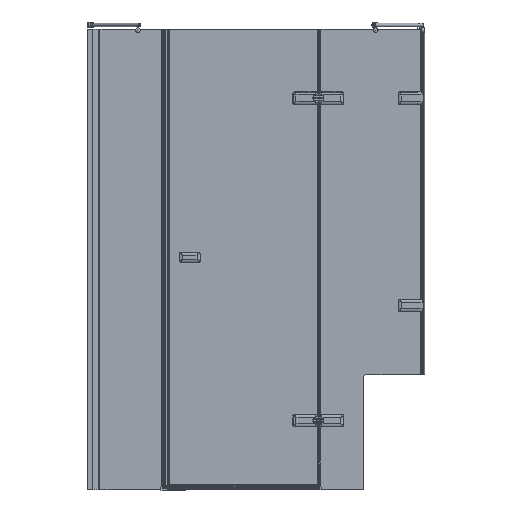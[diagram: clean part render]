
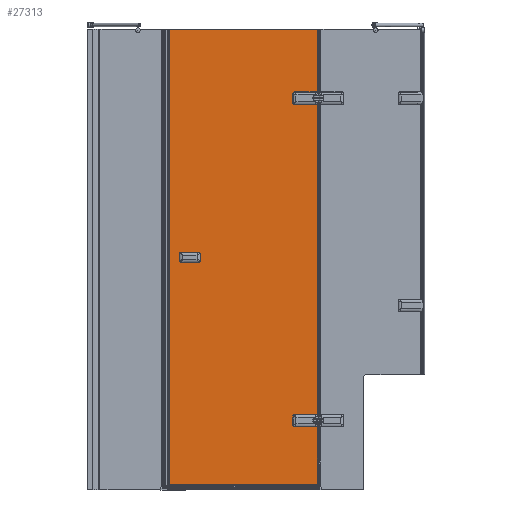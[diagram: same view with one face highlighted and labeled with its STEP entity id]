
A CAD part, front view. The second image highlights one B-rep face of the part: STEP entity #27313.
In plain terms, the highlighted planar face has unit normal (0, -1, 0).
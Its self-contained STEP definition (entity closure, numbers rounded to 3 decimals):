
#868=LINE($,#53818,#3219);
#872=LINE($,#53830,#3223);
#876=LINE($,#53841,#3227);
#1594=LINE($,#57191,#3945);
#1598=LINE($,#57203,#3949);
#1602=LINE($,#57214,#3953);
#1840=LINE($,#60328,#4191);
#2363=LINE($,#62188,#4714);
#2371=LINE($,#62207,#4722);
#2372=LINE($,#62209,#4723);
#2373=LINE($,#62211,#4724);
#2374=LINE($,#62212,#4725);
#3219=VECTOR($,#31676,96.);
#3223=VECTOR($,#31688,42.);
#3227=VECTOR($,#31700,96.);
#3945=VECTOR($,#33692,96.);
#3949=VECTOR($,#33704,42.);
#3953=VECTOR($,#33716,96.);
#4191=VECTOR($,#34628,648.724);
#4714=VECTOR($,#35863,277.362);
#4722=VECTOR($,#35893,1354.725);
#4723=VECTOR($,#35894,1975.4);
#4724=VECTOR($,#35895,648.724);
#4725=VECTOR($,#35896,252.762);
#7184=FACE_OUTER_BOUND($,#8824,.T.);
#8824=EDGE_LOOP($,(#22316,#22317,#22318,#22319,#22320,#22321,#22322,#22323,
#22324,#22325,#22326,#22327,#22328,#22329,#22330,#22331,#22332,#22333,#22334,
#22335));
#9415=CIRCLE($,#28147,5.);
#9418=CIRCLE($,#28151,5.);
#9455=CIRCLE($,#28227,5.);
#9457=CIRCLE($,#28231,5.);
#9666=CIRCLE($,#28794,5.);
#9669=CIRCLE($,#28798,5.);
#9705=CIRCLE($,#28872,5.);
#9707=CIRCLE($,#28876,5.);
#10601=VERTEX_POINT($,#53474);
#10602=VERTEX_POINT($,#53483);
#10605=VERTEX_POINT($,#53490);
#10608=VERTEX_POINT($,#53503);
#10719=VERTEX_POINT($,#53817);
#10721=VERTEX_POINT($,#53823);
#10723=VERTEX_POINT($,#53829);
#10725=VERTEX_POINT($,#53835);
#11306=VERTEX_POINT($,#56857);
#11307=VERTEX_POINT($,#56866);
#11310=VERTEX_POINT($,#56873);
#11313=VERTEX_POINT($,#56886);
#11421=VERTEX_POINT($,#57190);
#11423=VERTEX_POINT($,#57196);
#11425=VERTEX_POINT($,#57202);
#11427=VERTEX_POINT($,#57208);
#11740=VERTEX_POINT($,#60325);
#11741=VERTEX_POINT($,#60327);
#12174=VERTEX_POINT($,#62208);
#12175=VERTEX_POINT($,#62210);
#13248=EDGE_CURVE($,#10602,#10601,#9415,.T.);
#13255=EDGE_CURVE($,#10605,#10608,#9418,.T.);
#13411=EDGE_CURVE($,#10608,#10719,#868,.T.);
#13414=EDGE_CURVE($,#10719,#10721,#9455,.T.);
#13417=EDGE_CURVE($,#10721,#10723,#872,.T.);
#13420=EDGE_CURVE($,#10723,#10725,#9457,.T.);
#13423=EDGE_CURVE($,#10725,#10602,#876,.T.);
#14342=EDGE_CURVE($,#11307,#11306,#9666,.T.);
#14349=EDGE_CURVE($,#11310,#11313,#9669,.T.);
#14499=EDGE_CURVE($,#11313,#11421,#1594,.T.);
#14502=EDGE_CURVE($,#11421,#11423,#9705,.T.);
#14505=EDGE_CURVE($,#11423,#11425,#1598,.T.);
#14508=EDGE_CURVE($,#11425,#11427,#9707,.T.);
#14511=EDGE_CURVE($,#11427,#11307,#1602,.T.);
#14992=EDGE_CURVE($,#11740,#11741,#1840,.T.);
#15667=EDGE_CURVE($,#11306,#11741,#2363,.T.);
#15675=EDGE_CURVE($,#10601,#11310,#2371,.T.);
#15676=EDGE_CURVE($,#12174,#11740,#2372,.T.);
#15677=EDGE_CURVE($,#12174,#12175,#2373,.T.);
#15678=EDGE_CURVE($,#12175,#10605,#2374,.T.);
#22316=ORIENTED_EDGE($,*,*,#13248,.T.);
#22317=ORIENTED_EDGE($,*,*,#15675,.T.);
#22318=ORIENTED_EDGE($,*,*,#14349,.T.);
#22319=ORIENTED_EDGE($,*,*,#14499,.T.);
#22320=ORIENTED_EDGE($,*,*,#14502,.T.);
#22321=ORIENTED_EDGE($,*,*,#14505,.T.);
#22322=ORIENTED_EDGE($,*,*,#14508,.T.);
#22323=ORIENTED_EDGE($,*,*,#14511,.T.);
#22324=ORIENTED_EDGE($,*,*,#14342,.T.);
#22325=ORIENTED_EDGE($,*,*,#15667,.T.);
#22326=ORIENTED_EDGE($,*,*,#14992,.F.);
#22327=ORIENTED_EDGE($,*,*,#15676,.F.);
#22328=ORIENTED_EDGE($,*,*,#15677,.T.);
#22329=ORIENTED_EDGE($,*,*,#15678,.T.);
#22330=ORIENTED_EDGE($,*,*,#13255,.T.);
#22331=ORIENTED_EDGE($,*,*,#13411,.T.);
#22332=ORIENTED_EDGE($,*,*,#13414,.T.);
#22333=ORIENTED_EDGE($,*,*,#13417,.T.);
#22334=ORIENTED_EDGE($,*,*,#13420,.T.);
#22335=ORIENTED_EDGE($,*,*,#13423,.T.);
#24538=PLANE($,#29582);
#27313=ADVANCED_FACE($,(#7184),#24538,.T.);
#28147=AXIS2_PLACEMENT_3D($,#53484,#31400,#31401);
#28151=AXIS2_PLACEMENT_3D($,#53505,#31411,#31412);
#28227=AXIS2_PLACEMENT_3D($,#53824,#31681,#31682);
#28231=AXIS2_PLACEMENT_3D($,#53836,#31693,#31694);
#28794=AXIS2_PLACEMENT_3D($,#56867,#33425,#33426);
#28798=AXIS2_PLACEMENT_3D($,#56888,#33436,#33437);
#28872=AXIS2_PLACEMENT_3D($,#57197,#33697,#33698);
#28876=AXIS2_PLACEMENT_3D($,#57209,#33709,#33710);
#29582=AXIS2_PLACEMENT_3D($,#62206,#35891,#35892);
#31400=DIRECTION('center_axis',(0.,1.,0.));
#31401=DIRECTION('ref_axis',(-1.,0.,0.));
#31411=DIRECTION('center_axis',(0.,1.,0.));
#31412=DIRECTION('ref_axis',(0.,0.,
1.));
#31676=DIRECTION($,(-1.,0.,0.));
#31681=DIRECTION('center_axis',(0.,1.,0.));
#31682=DIRECTION('ref_axis',(1.,0.,0.));
#31688=DIRECTION($,(0.,0.,1.));
#31693=DIRECTION('center_axis',(0.,1.,0.));
#31694=DIRECTION('ref_axis',(0.,0.,
-1.));
#31700=DIRECTION($,(1.,0.,0.));
#33425=DIRECTION('center_axis',(0.,1.,0.));
#33426=DIRECTION('ref_axis',(-1.,0.,0.));
#33436=DIRECTION('center_axis',(0.,1.,0.));
#33437=DIRECTION('ref_axis',(0.,0.,
1.));
#33692=DIRECTION($,(-1.,0.,0.));
#33697=DIRECTION('center_axis',(0.,1.,0.));
#33698=DIRECTION('ref_axis',(1.,0.,0.));
#33704=DIRECTION($,(0.,0.,1.));
#33709=DIRECTION('center_axis',(0.,1.,0.));
#33710=DIRECTION('ref_axis',(0.,0.,
-1.));
#33716=DIRECTION($,(1.,0.,0.));
#34628=DIRECTION($,(1.,0.,0.));
#35863=DIRECTION($,(0.,0.,1.));
#35891=DIRECTION('center_axis',(0.,-1.,0.));
#35892=DIRECTION('ref_axis',(1.,0.,0.));
#35893=DIRECTION($,(0.,0.,1.));
#35894=DIRECTION($,(0.,0.,1.));
#35895=DIRECTION($,(1.,0.,0.));
#35896=DIRECTION($,(0.,0.,1.));
#53474=CARTESIAN_POINT('',(1021.886,-34.,-191.418));
#53483=CARTESIAN_POINT('',(1017.162,-34.,-188.056));
#53484=CARTESIAN_POINT('Origin',(1017.162,-34.,-193.056));
#53490=CARTESIAN_POINT('',(1021.886,-34.,-236.693));
#53503=CARTESIAN_POINT('',(1017.162,-34.,-240.056));
#53505=CARTESIAN_POINT('Origin',(1017.162,-34.,-235.056));
#53817=CARTESIAN_POINT('',(921.162,-34.,-240.056));
#53818=CARTESIAN_POINT($,(647.162,-34.,-240.056));
#53823=CARTESIAN_POINT('',(916.162,-34.,-235.056));
#53824=CARTESIAN_POINT('Origin',(921.162,-34.,-235.056));
#53829=CARTESIAN_POINT('',(916.162,-34.,-193.056));
#53830=CARTESIAN_POINT($,(916.162,-34.,-343.556));
#53835=CARTESIAN_POINT('',(921.162,-34.,-188.056));
#53836=CARTESIAN_POINT('Origin',(921.162,-34.,-193.056));
#53841=CARTESIAN_POINT($,(695.162,-34.,-188.056));
#56857=CARTESIAN_POINT('',(1021.886,-34.,1208.582));
#56866=CARTESIAN_POINT('',(1017.162,-34.,1211.944));
#56867=CARTESIAN_POINT('Origin',(1017.162,-34.,1206.944));
#56873=CARTESIAN_POINT('',(1021.886,-34.,1163.307));
#56886=CARTESIAN_POINT('',(1017.162,-34.,1159.944));
#56888=CARTESIAN_POINT('Origin',(1017.162,-34.,1164.944));
#57190=CARTESIAN_POINT('',(921.162,-34.,1159.944));
#57191=CARTESIAN_POINT($,(647.162,-34.,1159.944));
#57196=CARTESIAN_POINT('',(916.162,-34.,1164.944));
#57197=CARTESIAN_POINT('Origin',(921.162,-34.,1164.944));
#57202=CARTESIAN_POINT('',(916.162,-34.,1206.944));
#57203=CARTESIAN_POINT($,(916.162,-34.,356.444));
#57208=CARTESIAN_POINT('',(921.162,-34.,1211.944));
#57209=CARTESIAN_POINT('Origin',(921.162,-34.,1206.944));
#57214=CARTESIAN_POINT($,(695.162,-34.,1211.944));
#60325=CARTESIAN_POINT('',(373.162,-34.,1485.944));
#60327=CARTESIAN_POINT('',(1021.886,-34.,1485.944));
#60328=CARTESIAN_POINT($,(373.162,-34.,1485.944));
#62188=CARTESIAN_POINT($,(1021.886,-34.,1195.944));
#62206=CARTESIAN_POINT('Origin',(373.162,-34.,-494.056));
#62207=CARTESIAN_POINT($,(1021.886,-34.,-204.056));
#62208=CARTESIAN_POINT('',(373.162,-34.,-489.456));
#62209=CARTESIAN_POINT($,(373.162,-34.,-494.056));
#62210=CARTESIAN_POINT('',(1021.886,-34.,-489.456));
#62211=CARTESIAN_POINT($,(363.162,-34.,-489.456));
#62212=CARTESIAN_POINT($,(1021.886,-34.,-224.056));
